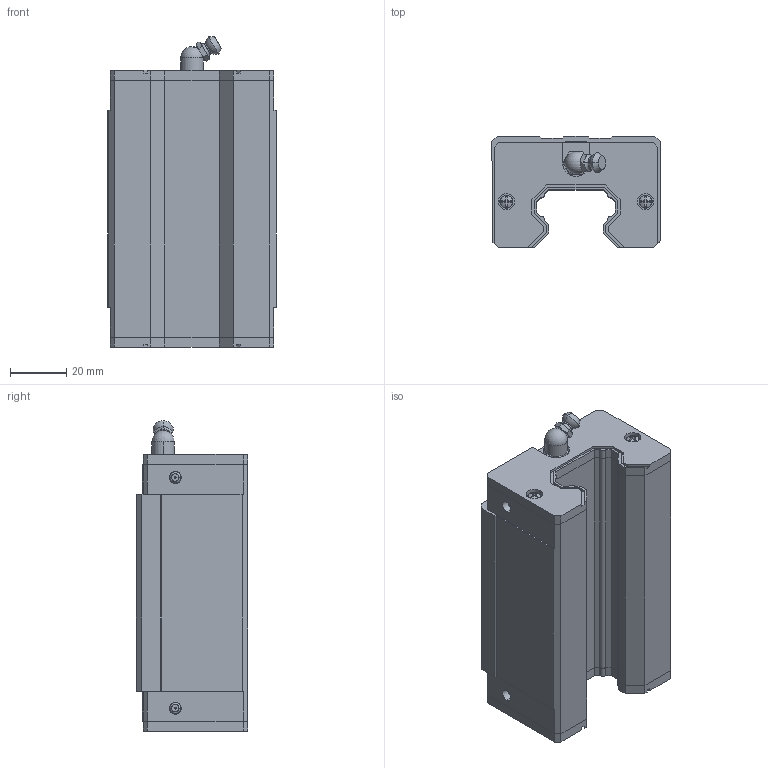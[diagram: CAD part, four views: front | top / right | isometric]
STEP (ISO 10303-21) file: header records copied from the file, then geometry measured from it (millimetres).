
FILE_DESCRIPTION (( 'STEP AP203' ), '1' );
FILE_NAME ('HGH30CA.STEP', '2021-10-22T07:51:42', ( '微软用户' ), ( '微软中国' ), 'SwSTEP 2.0', 'SolidWorks 2012', '' );
FILE_SCHEMA (( 'CONFIG_CONTROL_DESIGN' ));
Length unit declared in the file: millimetre
Products named in the file (1): HGH30CA
Bounding box: 60 x 39.5 x 110.4 mm (x, y, z)
Volume: 174119.7 mm3; surface area: 36032 mm2
Topology: 3 solids, 3 shells, 382 faces, 1002 edges, 653 vertices
Faces by surface type: plane 250, cylinder 76, cone 31, torus 20, sphere 5
Entity records: 12238 total; most frequent: CARTESIAN_POINT 2636, ORIENTED_EDGE 1980, DIRECTION 1979, EDGE_CURVE 990, VECTOR 671, LINE 671, AXIS2_PLACEMENT_3D 654, VERTEX_POINT 651
